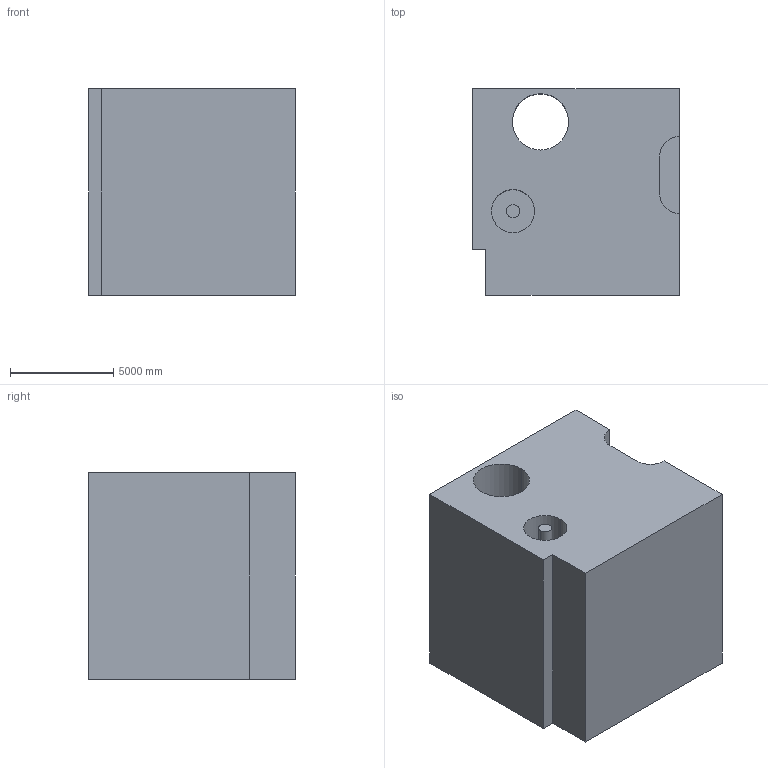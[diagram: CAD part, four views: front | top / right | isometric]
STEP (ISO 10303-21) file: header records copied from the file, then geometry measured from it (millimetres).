
FILE_DESCRIPTION (( 'STEP AP203' ), '1' );
FILE_NAME ('147.STEP', '2022-09-06T13:24:33', ( 'user' ), ( '' ), 'SwSTEP 2.0', 'SolidWorks 2021', '' );
FILE_SCHEMA (( 'CONFIG_CONTROL_DESIGN' ));
Length unit declared in the file: centimetre
Products named in the file (1): 147
Bounding box: 10000 x 10000 x 10000 mm (x, y, z)
Volume: 906395752039.6 mm3; surface area: 716781987.6 mm2
Topology: 1 solids, 1 shells, 24 faces, 57 edges, 38 vertices
Faces by surface type: plane 16, cylinder 8
Entity records: 778 total; most frequent: DIRECTION 123, CARTESIAN_POINT 120, ORIENTED_EDGE 114, EDGE_CURVE 57, VECTOR 41, AXIS2_PLACEMENT_3D 41, LINE 41, VERTEX_POINT 38
